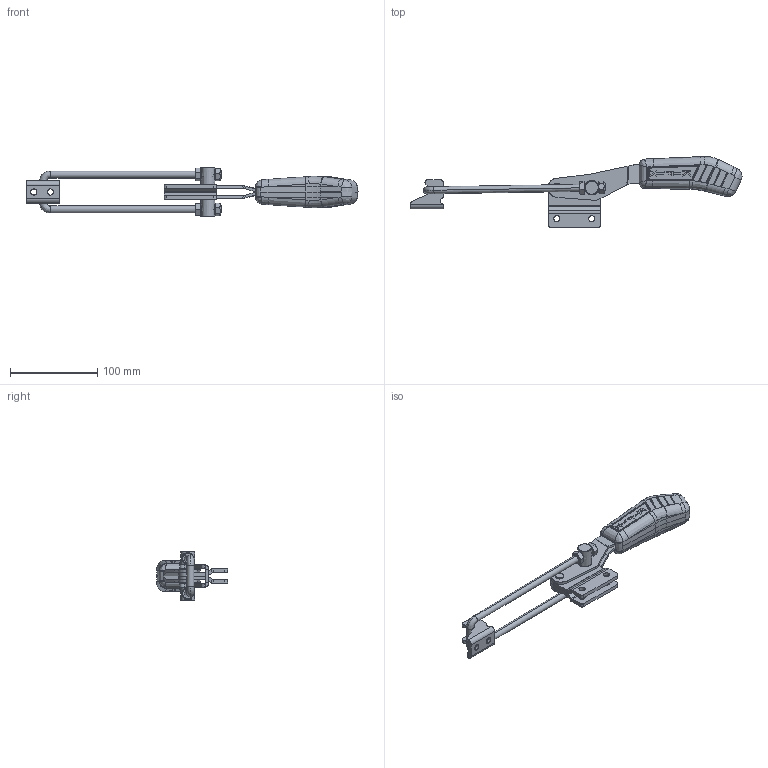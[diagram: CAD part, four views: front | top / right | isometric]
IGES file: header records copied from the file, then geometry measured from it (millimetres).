
Start section: SolidWorks IGES file using analytic representation for surfaces
Global section: file name: C:\Projetos\Grampos\KF-943\KF-943 RL\KF-943 RL.IGS; native system: SolidWorks 2013; preprocessor: SolidWorks 2013; author: Ricardo; date: 140821.133543; units: millimetre
Bounding box: 380.73 x 81.48 x 56.5 mm (x, y, z)
Surface area: 76207.7 mm2 (no closed solid volume)
Topology: 0 solids, 0 shells, 687 faces, 7460 edges, 7439 vertices
Faces by surface type: bspline 407, revolution 280
